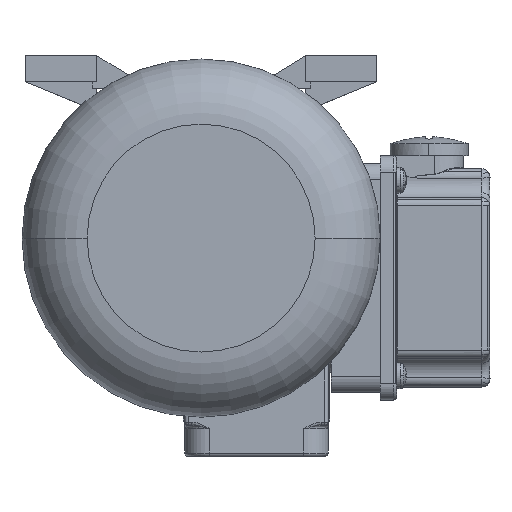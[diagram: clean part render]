
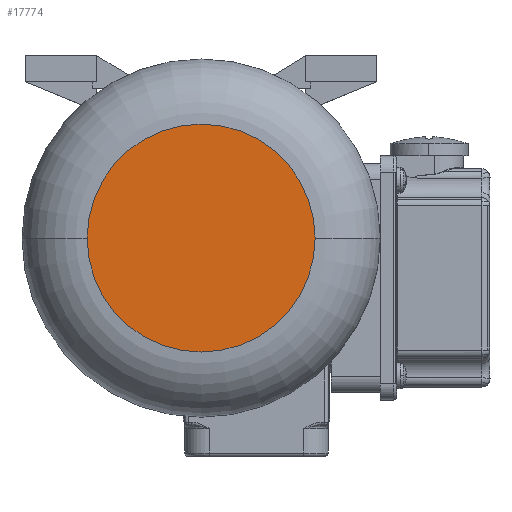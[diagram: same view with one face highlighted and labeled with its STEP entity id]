
A CAD part, left-side view. The second image highlights one B-rep face of the part: STEP entity #17774.
In plain terms, the highlighted planar face has unit normal (-1, 0, 0).
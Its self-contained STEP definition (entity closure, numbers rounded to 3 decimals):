
#733 = CARTESIAN_POINT ( 'NONE',  ( 0., 0., -35. ) ) ;
#1328 = DIRECTION ( 'NONE',  ( -1., 0., 0. ) ) ;
#1768 = VERTEX_POINT ( 'NONE', #733 ) ;
#6280 = VERTEX_POINT ( 'NONE', #11837 ) ;
#6697 = EDGE_LOOP ( 'NONE', ( #18718, #27606 ) ) ;
#9194 = DIRECTION ( 'NONE',  ( -1., 0., 0. ) ) ;
#9489 = CARTESIAN_POINT ( 'NONE',  ( 0., 0., 0. ) ) ;
#11526 = CIRCLE ( 'NONE', #22330, 35. ) ;
#11837 = CARTESIAN_POINT ( 'NONE',  ( 0., 0., 35. ) ) ;
#13025 = EDGE_CURVE ( 'NONE', #6280, #1768, #15296, .T. ) ;
#13209 = DIRECTION ( 'NONE',  ( 0., 0., -1. ) ) ;
#15227 = EDGE_CURVE ( 'NONE', #1768, #6280, #11526, .T. ) ;
#15296 = CIRCLE ( 'NONE', #27034, 35. ) ;
#15481 = CARTESIAN_POINT ( 'NONE',  ( 0., 0., 0. ) ) ;
#15790 = DIRECTION ( 'NONE',  ( 0., 0., -1. ) ) ;
#17774 = ADVANCED_FACE ( 'NONE', ( #23015 ), #20248, .F. ) ;
#18718 = ORIENTED_EDGE ( 'NONE', *, *, #15227, .T. ) ;
#20248 = PLANE ( 'NONE',  #21430 ) ;
#21430 = AXIS2_PLACEMENT_3D ( 'NONE', #15481, #24842, #15790 ) ;
#22330 = AXIS2_PLACEMENT_3D ( 'NONE', #9489, #9194, #25932 ) ;
#23015 = FACE_OUTER_BOUND ( 'NONE', #6697, .T. ) ;
#24842 = DIRECTION ( 'NONE',  ( 1., 0., 0. ) ) ;
#25932 = DIRECTION ( 'NONE',  ( 0., 0., -1. ) ) ;
#27034 = AXIS2_PLACEMENT_3D ( 'NONE', #29336, #1328, #13209 ) ;
#27606 = ORIENTED_EDGE ( 'NONE', *, *, #13025, .T. ) ;
#29336 = CARTESIAN_POINT ( 'NONE',  ( 0., 0., 0. ) ) ;
